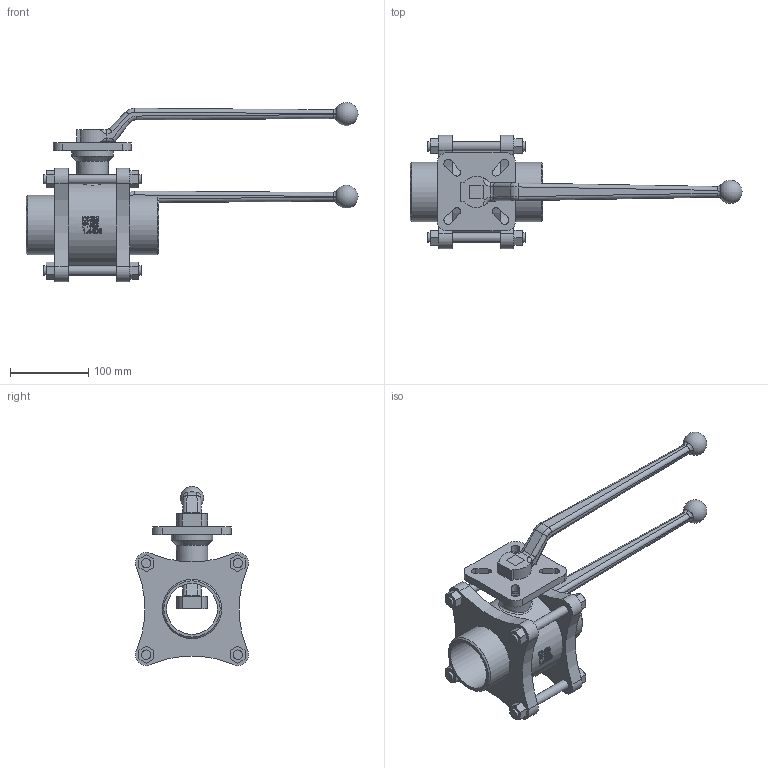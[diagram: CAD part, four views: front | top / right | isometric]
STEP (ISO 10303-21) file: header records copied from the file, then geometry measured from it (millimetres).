
FILE_DESCRIPTION( ( 'Unknown' ), '1' );
FILE_NAME( 'W:/ECCUA/ROOTSI BPS 3D vidinad/Kuulkraanid/Roostevaba kuulkraanid/Ball valve BPS 2421/Ball valve with hand lever BPS/STEP format/BPS 2421065 ball valve DN65.stp', 'Unknown', ( 'Unknown' ), ( 'Unknown' ), 'PSStep 10.1', 'Unknown', ' ' );
FILE_SCHEMA( ( 'AUTOMOTIVE_DESIGN { 1 0 10303 214 1 1 1 1 }' ) );
Length unit declared in the file: millimetre
Products named in the file (3): Assem1; Hand lever for ball valve DN65-100 BPS 2420-21; BPS 2421065 ball valve DN65
Bounding box: 425 x 144.92 x 229.31 mm (x, y, z)
Volume: 2522376.7 mm3; surface area: 405376.1 mm2
Topology: 4 solids, 4 shells, 618 faces, 1520 edges, 1000 vertices
Faces by surface type: plane 316, cylinder 172, bspline 110, torus 12, cone 6, sphere 2
Full cylindrical faces by diameter (mm): 12 x24, 40 x2, 53 x2, 65 x2, 76 x4, 110 x2
Entity records: 17593 total; most frequent: CARTESIAN_POINT 8545, ORIENTED_EDGE 1448, DIRECTION 1065, EDGE_CURVE 724, VERTEX_POINT 493, AXIS2_PLACEMENT_3D 402, EDGE_LOOP 401, FACE_OUTER_BOUND 334
